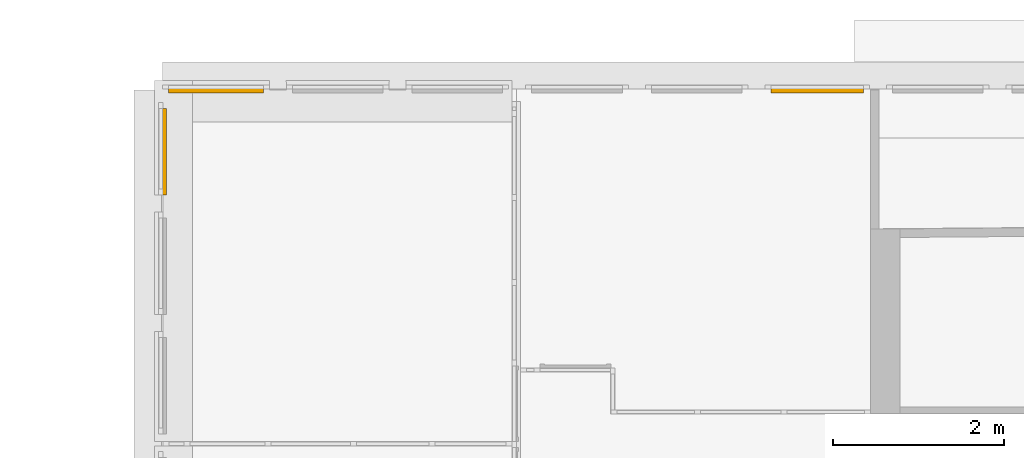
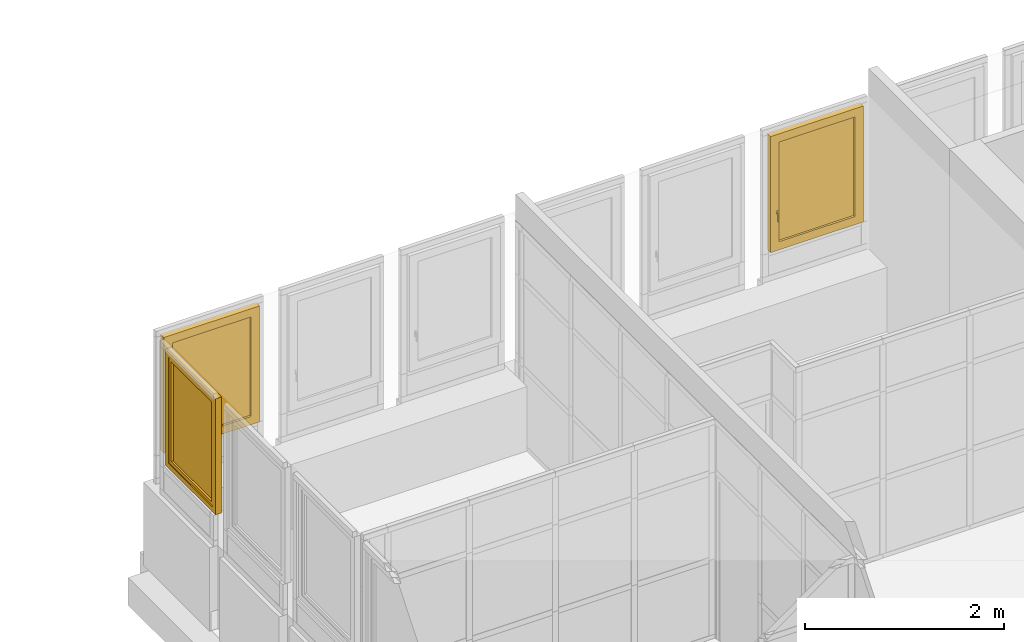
# One storey, part 92 of 97: 3 windows, 3 elements without a shape of their own.
"""IFC4 building model written with IfcOpenShell, lengths in metres."""

from ifc_helpers import new_model, entity, si_unit, converted_unit, derived_unit, direction, frame, origin, place, context, subcontext, project, spatial, polygons, source, transform, mapped, material, material_list, constituent, constituent_set, type_object, type_shapes, element, aggregate, save


model = new_model("IFC4")

# Units and contexts
model_context = context("Model", 3, precision=1e-05, world=origin(), true_north=direction((6.12303176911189e-17, 1.0)))
body_context = subcontext(model_context, "Body", "Model", "MODEL_VIEW")
ifc_project = project(units=[si_unit("LENGTHUNIT", "METRE"), si_unit("AREAUNIT", "SQUARE_METRE"), si_unit("VOLUMEUNIT", "CUBIC_METRE"), converted_unit("PLANEANGLEUNIT", "DEGREE", entity("IfcRatioMeasure", 0.0174532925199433), si_unit("PLANEANGLEUNIT", "RADIAN"), dimensions=[0, 0, 0, 0, 0, 0, 0]), si_unit("MASSUNIT", "GRAM", prefix="KILO"), derived_unit("MASSDENSITYUNIT", [(si_unit("MASSUNIT", "GRAM", prefix="KILO"), 1), (si_unit("LENGTHUNIT", "METRE"), -3)]), derived_unit("MOMENTOFINERTIAUNIT", [(si_unit("LENGTHUNIT", "METRE"), 4)]), si_unit("TIMEUNIT", "SECOND"), si_unit("FREQUENCYUNIT", "HERTZ"), si_unit("THERMODYNAMICTEMPERATUREUNIT", "DEGREE_CELSIUS"), derived_unit("THERMALTRANSMITTANCEUNIT", [(si_unit("MASSUNIT", "GRAM", prefix="KILO"), 1), (si_unit("THERMODYNAMICTEMPERATUREUNIT", "KELVIN"), -1), (si_unit("TIMEUNIT", "SECOND"), -3)]), derived_unit("VOLUMETRICFLOWRATEUNIT", [(si_unit("LENGTHUNIT", "METRE"), 3), (si_unit("TIMEUNIT", "SECOND"), -1)]), si_unit("ELECTRICCURRENTUNIT", "AMPERE"), si_unit("ELECTRICVOLTAGEUNIT", "VOLT"), si_unit("POWERUNIT", "WATT"), si_unit("FORCEUNIT", "NEWTON", prefix="KILO"), si_unit("ILLUMINANCEUNIT", "LUX"), si_unit("LUMINOUSFLUXUNIT", "LUMEN"), si_unit("LUMINOUSINTENSITYUNIT", "CANDELA"), derived_unit("USERDEFINED", [(si_unit("MASSUNIT", "GRAM", prefix="KILO"), -1), (si_unit("LENGTHUNIT", "METRE"), -2), (si_unit("TIMEUNIT", "SECOND"), 3), (si_unit("LUMINOUSFLUXUNIT", "LUMEN"), 1)]), derived_unit("LINEARVELOCITYUNIT", [(si_unit("LENGTHUNIT", "METRE"), 1), (si_unit("TIMEUNIT", "SECOND"), -1)]), si_unit("PRESSUREUNIT", "PASCAL"), derived_unit("USERDEFINED", [(si_unit("LENGTHUNIT", "METRE"), -2), (si_unit("MASSUNIT", "GRAM", prefix="KILO"), 1), (si_unit("TIMEUNIT", "SECOND"), -2)]), derived_unit("LINEARFORCEUNIT", [(si_unit("MASSUNIT", "GRAM", prefix="KILO"), 1), (si_unit("LENGTHUNIT", "METRE"), 1), (si_unit("TIMEUNIT", "SECOND"), -2), (si_unit("LENGTHUNIT", "METRE"), -1)]), derived_unit("PLANARFORCEUNIT", [(si_unit("MASSUNIT", "GRAM", prefix="KILO"), 1), (si_unit("LENGTHUNIT", "METRE"), 1), (si_unit("TIMEUNIT", "SECOND"), -2), (si_unit("LENGTHUNIT", "METRE"), -2)])], contexts=[model_context])

# Site, building, storey
site_placement = place(None, origin())
site = spatial("IfcSite", under=ifc_project, at=site_placement, Name="Default", CompositionType="ELEMENT")
building_placement = place(site_placement, origin())
building = spatial("IfcBuilding", under=site, at=building_placement, Name="HOTEL CONSULAIRE BOULOGNE SUR MER", CompositionType="ELEMENT")
storey_placement = place(building_placement, frame((0.0, 0.0, 3.62152697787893)))
storey = spatial("IfcBuildingStorey", under=building, at=storey_placement, Name="Niveau 1", CompositionType="ELEMENT", Elevation=3.62152697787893)

# Curtain wall, window
curtain_wall_type = type_object("IfcCurtainWallType", Name="Mur-rideau:Simple panneau", PredefinedType="NOTDEFINED")
curtain_wall_1_placement = place(storey_placement, frame((0.0, 0.0, -3.62152697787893)))
curtain_wall_1 = element("IfcCurtainWall", 1, at=curtain_wall_1_placement, inside=storey, type_object=curtain_wall_type, Name="Mur-rideau:Simple panneau", ObjectType="Mur-rideau:Simple panneau", PredefinedType="NOTDEFINED")
ifc_material_1 = material(Name="PVC - Blanc", Category="Plastique")
ifc_constituent_1 = constituent(ifc_material_1, Name="PVC - Blanc", Category="Matériaux")
ifc_material_2 = material(Name="Fenêtre - Vitrage", Category="Verre")
ifc_constituent_2 = constituent(ifc_material_2, Name="Fenêtre - Vitrage", Category="Matériaux")
ifc_constituent_set_1 = constituent_set(constituents=[ifc_constituent_1, ifc_constituent_2], Name="MaterialConstituentSet")
ifc_material_list_1 = material_list([ifc_material_1, ifc_material_1])
window_type_1 = type_object("IfcWindowType", Name="MR 1 Vantail:MR 1 Vantail", PartitioningType="NOTDEFINED", PredefinedType="WINDOW", material=ifc_material_list_1)
shared_shape_1 = source(origin(), body_context, "Body", "Tessellation", [
    polygons([(-0.436208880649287, -0.0492408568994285, 0.472033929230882), (-0.424916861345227, -0.0492408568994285, 0.472033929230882), (-0.423528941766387, -0.0492408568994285, 0.470646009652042), (-0.423528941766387, -0.0492408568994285, 0.459332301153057), (-0.424895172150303, -0.0492408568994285, 0.457966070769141), (-0.436230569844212, -0.0492408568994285, 0.457966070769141), (-0.437596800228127, -0.0492408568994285, 0.459332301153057), (-0.437596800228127, -0.0492408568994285, 0.470646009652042), (-0.437596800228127, -0.0615795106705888, 0.470646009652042), (-0.436208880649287, -0.0621544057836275, 0.472033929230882), (-0.437596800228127, -0.0568932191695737, 0.459332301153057), (-0.437596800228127, -0.0635731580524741, 0.452652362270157), (-0.437596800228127, -0.0635731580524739, 0.370000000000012), (-0.437596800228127, -0.0748868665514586, 0.370000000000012), (-0.437596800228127, -0.0748868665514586, 0.457338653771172), (-0.436230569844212, -0.0563273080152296, 0.457966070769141), (-0.424895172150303, -0.0563273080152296, 0.457966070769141), (-0.423528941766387, -0.0568932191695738, 0.459332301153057), (-0.423528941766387, -0.0615795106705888, 0.470646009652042), (-0.423528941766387, -0.0748868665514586, 0.457338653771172), (-0.423528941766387, -0.0748868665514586, 0.370000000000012), (-0.423528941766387, -0.0635731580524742, 0.370000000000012), (-0.423528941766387, -0.0635731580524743, 0.452652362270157), (-0.424916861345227, -0.0621544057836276, 0.472033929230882), (-0.436208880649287, -0.076274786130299, 0.457913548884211), (-0.436230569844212, -0.0622069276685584, 0.452086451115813), (-0.424895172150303, -0.0622069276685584, 0.452086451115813), (-0.424916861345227, -0.076274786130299, 0.457913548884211), (-0.436208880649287, -0.0762747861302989, 0.370000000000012), (-0.436230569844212, -0.0622069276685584, 0.370000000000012), (-0.424895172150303, -0.0622069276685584, 0.370000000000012), (-0.424916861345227, -0.0762747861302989, 0.370000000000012)], [[[6, 7, 8, 1, 2, 3, 4, 5]], [[30, 26, 27, 31]], [[9, 10, 1, 8]], [[11, 12, 13, 14, 15, 9, 8, 7]], [[16, 11, 7, 6]], [[16, 6, 5, 17]], [[31, 22, 21, 32, 29, 14, 13, 30]], [[17, 5, 4, 18]], [[3, 19, 20, 21, 22, 23, 18, 4]], [[19, 3, 2, 24]], [[24, 2, 1, 10]], [[15, 25, 10, 9]], [[26, 12, 11, 16]], [[27, 26, 16, 17]], [[27, 17, 18, 23]], [[20, 19, 24, 28]], [[28, 24, 10, 25]], [[29, 25, 15, 14]], [[13, 12, 26, 30]], [[22, 31, 27, 23]], [[32, 21, 20, 28]], [[32, 28, 25, 29]]], closed=True),
    polygons([(-0.437562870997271, -0.0432408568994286, 0.490000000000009), (-0.423562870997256, -0.0432408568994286, 0.490000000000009), (-0.418562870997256, -0.0432408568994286, 0.48500000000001), (-0.418562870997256, -0.0432408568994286, 0.414999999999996), (-0.423562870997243, -0.0432408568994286, 0.410000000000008), (-0.437562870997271, -0.0432408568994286, 0.410000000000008), (-0.442562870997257, -0.0432408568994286, 0.414999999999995), (-0.442562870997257, -0.0432408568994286, 0.48500000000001), (-0.437562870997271, -0.0492408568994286, 0.490000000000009), (-0.442562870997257, -0.0492408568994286, 0.48500000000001), (-0.442562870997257, -0.0492408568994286, 0.414999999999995), (-0.437562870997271, -0.0492408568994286, 0.410000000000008), (-0.423562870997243, -0.0492408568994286, 0.410000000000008), (-0.418562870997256, -0.0492408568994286, 0.414999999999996), (-0.418562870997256, -0.0492408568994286, 0.48500000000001), (-0.423562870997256, -0.0492408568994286, 0.490000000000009)], [[[2, 3, 4, 5, 6, 7, 8, 1]], [[13, 14, 15, 16, 9, 10, 11, 12]], [[9, 1, 8, 10]], [[10, 8, 7, 11]], [[11, 7, 6, 12]], [[12, 6, 5, 13]], [[13, 5, 4, 14]], [[15, 14, 4, 3]], [[15, 3, 2, 16]], [[16, 2, 1, 9]]], closed=True),
    polygons([(0.405562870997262, -0.0192408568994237, 1.32586048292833), (-0.405562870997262, -0.0192408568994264, 1.32586048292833), (-0.405562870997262, -0.0192408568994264, 0.1), (0.405562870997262, -0.0192408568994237, 0.1), (0.405562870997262, -0.00724085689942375, 1.32586048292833), (0.405562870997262, -0.00724085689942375, 0.1), (-0.405562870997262, -0.00724085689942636, 0.1), (-0.405562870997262, -0.00724085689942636, 1.32586048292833)], [[[4, 1, 2, 3]], [[7, 8, 5, 6]], [[2, 1, 5, 8]], [[3, 2, 8, 7]], [[4, 3, 7, 6]], [[1, 4, 6, 5]]], closed=True),
    polygons([(-0.455562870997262, 0.0167591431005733, 1.37586048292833), (-0.455562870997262, -0.043240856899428, 1.37586048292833), (0.455562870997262, -0.043240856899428, 1.37586048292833), (0.455562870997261, 0.0167591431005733, 1.37586048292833), (-0.405562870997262, -0.043240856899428, 1.32586048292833), (-0.405562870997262, 0.0167591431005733, 1.32586048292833), (0.405562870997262, 0.0167591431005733, 1.32586048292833), (0.405562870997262, -0.043240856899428, 1.32586048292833), (0.455562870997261, -0.043240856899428, 0.0500000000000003), (0.455562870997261, 0.0167591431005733, 0.0500000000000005), (0.405562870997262, 0.0167591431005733, 0.1), (0.405562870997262, -0.043240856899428, 0.1), (-0.455562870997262, -0.043240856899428, 0.0500000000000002), (-0.455562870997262, 0.0167591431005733, 0.0500000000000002), (-0.405562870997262, 0.0167591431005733, 0.1), (-0.405562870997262, -0.043240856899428, 0.1)], [[[1, 2, 3, 4]], [[12, 11, 15, 16]], [[5, 6, 7, 8]], [[10, 9, 13, 14]], [[4, 3, 9, 10]], [[16, 15, 6, 5]], [[8, 7, 11, 12]], [[14, 13, 2, 1]], [[9, 3, 2, 13], [16, 5, 8, 12]], [[14, 1, 4, 10], [11, 7, 6, 15]]], closed=True),
    polygons([(-0.445562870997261, 0.016759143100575, 1.36586048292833), (-0.445562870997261, 0.0267591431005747, 1.36586048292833), (0.445562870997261, 0.0267591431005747, 1.36586048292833), (0.445562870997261, 0.016759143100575, 1.36586048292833), (-0.455562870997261, -0.0432408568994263, 1.37586048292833), (-0.455562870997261, 0.016759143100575, 1.37586048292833), (0.455562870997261, 0.016759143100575, 1.37586048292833), (0.455562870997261, -0.0432408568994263, 1.37586048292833), (-0.505562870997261, 0.0267591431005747, 1.42586048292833), (-0.505562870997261, -0.0432408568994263, 1.42586048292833), (0.505562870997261, -0.0432408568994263, 1.42586048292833), (0.505562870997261, 0.0267591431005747, 1.42586048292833), (0.445562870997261, 0.0267591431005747, 0.0600000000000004), (0.445562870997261, 0.016759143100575, 0.0600000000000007), (0.455562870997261, 0.016759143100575, 0.0500000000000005), (0.455562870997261, -0.0432408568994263, 0.0500000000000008), (0.505562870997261, -0.0432408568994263, 5.41433564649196e-16), (0.505562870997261, 0.0267591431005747, 5.41433564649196e-16), (-0.445562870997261, 0.0267591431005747, 0.0600000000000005), (-0.445562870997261, 0.016759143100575, 0.0600000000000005), (-0.455562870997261, 0.016759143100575, 0.0500000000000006), (-0.455562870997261, -0.0432408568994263, 0.0500000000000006), (-0.505562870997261, -0.0432408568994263, 6.09112760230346e-16), (-0.505562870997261, 0.0267591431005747, 6.09112760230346e-16)], [[[1, 2, 3, 4]], [[5, 6, 7, 8]], [[18, 17, 23, 24]], [[9, 10, 11, 12]], [[14, 13, 19, 20]], [[16, 15, 21, 22]], [[4, 3, 13, 14]], [[8, 7, 15, 16]], [[24, 23, 10, 9]], [[12, 11, 17, 18]], [[20, 19, 2, 1]], [[22, 21, 6, 5]], [[24, 9, 12, 18], [13, 3, 2, 19]], [[15, 7, 6, 21], [20, 1, 4, 14]], [[17, 11, 10, 23], [22, 5, 8, 16]]], closed=True),
])
type_shapes(window_type_1, [shared_shape_1])
window_1_placement = place(curtain_wall_1_placement, frame((-13.7870998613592, -10.8058870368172, 4.79613951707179), z_axis=(0.0, 0.0, 1.0), x_axis=(0.0, 1.0, 0.0)))
window_1 = element("IfcWindow", 2, at=window_1_placement, type_object=window_type_1, material=ifc_constituent_set_1, Name="MR 1 Vantail:MR 1 Vantail", ObjectType="MR 1 Vantail:MR 1 Vantail", OverallHeight=1.42586048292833, OverallWidth=1.01112574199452, PartitioningType="NOTDEFINED", PredefinedType="WINDOW", context=body_context, shape_type="MappedRepresentation", body=[
    mapped(shared_shape_1, transform((0.0, 0.0, 0.0), scale=1.0)),
])
aggregate(curtain_wall_1, [window_1])

curtain_wall_2_placement = place(storey_placement, frame((0.0, 0.0, -3.62152697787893)))
curtain_wall_2 = element("IfcCurtainWall", 3, at=curtain_wall_2_placement, inside=storey, type_object=curtain_wall_type, Name="Mur-rideau:Simple panneau", ObjectType="Mur-rideau:Simple panneau", PredefinedType="NOTDEFINED")
ifc_constituent_3 = constituent(ifc_material_1, Name="PVC - Blanc", Category="Matériaux")
ifc_constituent_4 = constituent(ifc_material_2, Name="Fenêtre - Vitrage", Category="Matériaux")
ifc_constituent_set_2 = constituent_set(constituents=[ifc_constituent_3, ifc_constituent_4], Name="MaterialConstituentSet")
ifc_material_list_2 = material_list([ifc_material_1, ifc_material_1])
window_type_2 = type_object("IfcWindowType", Name="MR 1 Vantail:MR 1 Vantail", PartitioningType="NOTDEFINED", PredefinedType="WINDOW", material=ifc_material_list_2)
shared_shape_2 = source(origin(), body_context, "Body", "Tessellation", [
    polygons([(-0.486926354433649, -0.0492408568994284, 0.472033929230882), (-0.475634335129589, -0.0492408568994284, 0.472033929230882), (-0.474246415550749, -0.0492408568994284, 0.470646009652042), (-0.474246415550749, -0.0492408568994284, 0.459332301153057), (-0.475612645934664, -0.0492408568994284, 0.457966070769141), (-0.486948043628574, -0.0492408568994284, 0.457966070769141), (-0.488314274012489, -0.0492408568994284, 0.459332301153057), (-0.488314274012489, -0.0492408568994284, 0.470646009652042), (-0.488314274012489, -0.0615795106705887, 0.470646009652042), (-0.486926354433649, -0.0621544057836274, 0.472033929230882), (-0.488314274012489, -0.0568932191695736, 0.459332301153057), (-0.488314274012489, -0.063573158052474, 0.452652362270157), (-0.488314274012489, -0.0635731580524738, 0.370000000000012), (-0.488314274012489, -0.0748868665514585, 0.370000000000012), (-0.488314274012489, -0.0748868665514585, 0.457338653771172), (-0.486948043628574, -0.0563273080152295, 0.457966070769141), (-0.475612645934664, -0.0563273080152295, 0.457966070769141), (-0.474246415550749, -0.0568932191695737, 0.459332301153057), (-0.474246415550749, -0.0615795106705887, 0.470646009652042), (-0.474246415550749, -0.0748868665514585, 0.457338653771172), (-0.474246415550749, -0.0748868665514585, 0.370000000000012), (-0.474246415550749, -0.0635731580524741, 0.370000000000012), (-0.474246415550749, -0.0635731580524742, 0.452652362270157), (-0.475634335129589, -0.0621544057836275, 0.472033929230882), (-0.486926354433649, -0.0762747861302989, 0.457913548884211), (-0.486948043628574, -0.0622069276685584, 0.452086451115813), (-0.475612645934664, -0.0622069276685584, 0.452086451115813), (-0.475634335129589, -0.0762747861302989, 0.457913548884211), (-0.486926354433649, -0.0762747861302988, 0.370000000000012), (-0.486948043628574, -0.0622069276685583, 0.370000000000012), (-0.475612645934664, -0.0622069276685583, 0.370000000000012), (-0.475634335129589, -0.0762747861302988, 0.370000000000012)], [[[6, 7, 8, 1, 2, 3, 4, 5]], [[30, 26, 27, 31]], [[9, 10, 1, 8]], [[11, 12, 13, 14, 15, 9, 8, 7]], [[16, 11, 7, 6]], [[16, 6, 5, 17]], [[31, 22, 21, 32, 29, 14, 13, 30]], [[17, 5, 4, 18]], [[3, 19, 20, 21, 22, 23, 18, 4]], [[19, 3, 2, 24]], [[24, 2, 1, 10]], [[15, 25, 10, 9]], [[26, 12, 11, 16]], [[27, 26, 16, 17]], [[27, 17, 18, 23]], [[20, 19, 24, 28]], [[28, 24, 10, 25]], [[29, 25, 15, 14]], [[13, 12, 26, 30]], [[22, 31, 27, 23]], [[32, 21, 20, 28]], [[32, 28, 25, 29]]], closed=True),
    polygons([(-0.488280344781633, -0.0432408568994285, 0.490000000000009), (-0.474280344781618, -0.0432408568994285, 0.490000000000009), (-0.469280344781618, -0.0432408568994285, 0.48500000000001), (-0.469280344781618, -0.0432408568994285, 0.414999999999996), (-0.474280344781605, -0.0432408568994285, 0.410000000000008), (-0.488280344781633, -0.0432408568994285, 0.410000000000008), (-0.493280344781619, -0.0432408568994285, 0.414999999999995), (-0.493280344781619, -0.0432408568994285, 0.48500000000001), (-0.488280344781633, -0.0492408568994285, 0.490000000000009), (-0.493280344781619, -0.0492408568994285, 0.48500000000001), (-0.493280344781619, -0.0492408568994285, 0.414999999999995), (-0.488280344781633, -0.0492408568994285, 0.410000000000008), (-0.474280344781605, -0.0492408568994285, 0.410000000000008), (-0.469280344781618, -0.0492408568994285, 0.414999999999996), (-0.469280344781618, -0.0492408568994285, 0.48500000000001), (-0.474280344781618, -0.0492408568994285, 0.490000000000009)], [[[2, 3, 4, 5, 6, 7, 8, 1]], [[13, 14, 15, 16, 9, 10, 11, 12]], [[9, 1, 8, 10]], [[10, 8, 7, 11]], [[11, 7, 6, 12]], [[12, 6, 5, 13]], [[13, 5, 4, 14]], [[15, 14, 4, 3]], [[15, 3, 2, 16]], [[16, 2, 1, 9]]], closed=True),
    polygons([(0.456280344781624, -0.0192408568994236, 1.32586048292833), (-0.456280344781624, -0.0192408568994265, 1.32586048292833), (-0.456280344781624, -0.0192408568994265, 0.0999999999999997), (0.456280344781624, -0.0192408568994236, 0.0999999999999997), (0.456280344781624, -0.00724085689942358, 1.32586048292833), (0.456280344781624, -0.00724085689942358, 0.0999999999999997), (-0.456280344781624, -0.00724085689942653, 0.0999999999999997), (-0.456280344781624, -0.00724085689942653, 1.32586048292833)], [[[4, 1, 2, 3]], [[7, 8, 5, 6]], [[2, 1, 5, 8]], [[3, 2, 8, 7]], [[4, 3, 7, 6]], [[1, 4, 6, 5]]], closed=True),
    polygons([(-0.506280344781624, 0.0167591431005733, 1.37586048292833), (-0.506280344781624, -0.043240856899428, 1.37586048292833), (0.506280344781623, -0.043240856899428, 1.37586048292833), (0.506280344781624, 0.0167591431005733, 1.37586048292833), (-0.456280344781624, -0.043240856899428, 1.32586048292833), (-0.456280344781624, 0.0167591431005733, 1.32586048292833), (0.456280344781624, 0.0167591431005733, 1.32586048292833), (0.456280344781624, -0.043240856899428, 1.32586048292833), (0.506280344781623, -0.043240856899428, 0.0500000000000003), (0.506280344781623, 0.0167591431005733, 0.0500000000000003), (0.456280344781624, 0.0167591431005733, 0.0999999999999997), (0.456280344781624, -0.043240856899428, 0.0999999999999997), (-0.506280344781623, -0.043240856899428, 0.0500000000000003), (-0.506280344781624, 0.0167591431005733, 0.0500000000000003), (-0.456280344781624, 0.0167591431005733, 0.0999999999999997), (-0.456280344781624, -0.043240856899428, 0.0999999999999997)], [[[1, 2, 3, 4]], [[12, 11, 15, 16]], [[5, 6, 7, 8]], [[10, 9, 13, 14]], [[4, 3, 9, 10]], [[16, 15, 6, 5]], [[8, 7, 11, 12]], [[14, 13, 2, 1]], [[9, 3, 2, 13], [16, 5, 8, 12]], [[14, 1, 4, 10], [11, 7, 6, 15]]], closed=True),
    polygons([(-0.496280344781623, 0.016759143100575, 1.36586048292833), (-0.496280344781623, 0.0267591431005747, 1.36586048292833), (0.496280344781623, 0.0267591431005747, 1.36586048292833), (0.496280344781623, 0.016759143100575, 1.36586048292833), (-0.506280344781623, -0.0432408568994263, 1.37586048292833), (-0.506280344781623, 0.016759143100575, 1.37586048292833), (0.506280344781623, 0.016759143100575, 1.37586048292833), (0.506280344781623, -0.0432408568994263, 1.37586048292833), (-0.556280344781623, 0.0267591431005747, 1.42586048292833), (-0.556280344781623, -0.0432408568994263, 1.42586048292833), (0.556280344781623, -0.0432408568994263, 1.42586048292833), (0.556280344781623, 0.0267591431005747, 1.42586048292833), (0.496280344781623, 0.0267591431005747, 0.0600000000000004), (0.496280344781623, 0.016759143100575, 0.0600000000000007), (0.506280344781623, 0.016759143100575, 0.0500000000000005), (0.506280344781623, -0.0432408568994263, 0.0500000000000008), (0.556280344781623, -0.0432408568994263, 5.41433564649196e-16), (0.556280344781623, 0.0267591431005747, 5.41433564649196e-16), (-0.496280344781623, 0.0267591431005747, 0.0600000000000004), (-0.496280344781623, 0.016759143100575, 0.0600000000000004), (-0.506280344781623, 0.016759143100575, 0.0500000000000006), (-0.506280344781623, -0.0432408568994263, 0.0500000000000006), (-0.556280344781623, -0.0432408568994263, 5.41433564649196e-16), (-0.556280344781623, 0.0267591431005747, 5.41433564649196e-16)], [[[1, 2, 3, 4]], [[5, 6, 7, 8]], [[18, 17, 23, 24]], [[9, 10, 11, 12]], [[14, 13, 19, 20]], [[16, 15, 21, 22]], [[4, 3, 13, 14]], [[8, 7, 15, 16]], [[24, 23, 10, 9]], [[12, 11, 17, 18]], [[20, 19, 2, 1]], [[22, 21, 6, 5]], [[24, 9, 12, 18], [13, 3, 2, 19]], [[15, 7, 6, 21], [20, 1, 4, 14]], [[17, 11, 10, 23], [22, 5, 8, 16]]], closed=True),
])
type_shapes(window_type_2, [shared_shape_2])
window_2_placement = place(curtain_wall_2_placement, frame((-13.1677003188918, -10.0746323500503, 4.79613951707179)))
window_2 = element("IfcWindow", 4, at=window_2_placement, type_object=window_type_2, material=ifc_constituent_set_2, Name="MR 1 Vantail:MR 1 Vantail", ObjectType="MR 1 Vantail:MR 1 Vantail", OverallHeight=1.42586048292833, OverallWidth=1.11256068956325, PartitioningType="NOTDEFINED", PredefinedType="WINDOW", context=body_context, shape_type="MappedRepresentation", body=[
    mapped(shared_shape_2, transform((0.0, 0.0, 0.0), scale=1.0)),
])
aggregate(curtain_wall_2, [window_2])

curtain_wall_3_placement = place(storey_placement, frame((0.0, 0.0, -3.62152697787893)))
curtain_wall_3 = element("IfcCurtainWall", 5, at=curtain_wall_3_placement, inside=storey, type_object=curtain_wall_type, Name="Mur-rideau:Simple panneau", ObjectType="Mur-rideau:Simple panneau", PredefinedType="NOTDEFINED")
ifc_constituent_5 = constituent(ifc_material_1, Name="PVC - Blanc", Category="Matériaux")
ifc_constituent_6 = constituent(ifc_material_2, Name="Fenêtre - Vitrage", Category="Matériaux")
ifc_constituent_set_3 = constituent_set(constituents=[ifc_constituent_5, ifc_constituent_6], Name="MaterialConstituentSet")
ifc_material_list_3 = material_list([ifc_material_1, ifc_material_1])
window_type_3 = type_object("IfcWindowType", Name="MR 1 Vantail:MR 1 Vantail", PartitioningType="NOTDEFINED", PredefinedType="WINDOW", material=ifc_material_list_3)
shared_shape_3 = source(origin(), body_context, "Body", "Tessellation", [
    polygons([(-0.471469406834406, -0.0492408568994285, 0.472033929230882), (-0.460177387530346, -0.0492408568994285, 0.472033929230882), (-0.458789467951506, -0.0492408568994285, 0.470646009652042), (-0.458789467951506, -0.0492408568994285, 0.459332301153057), (-0.460155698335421, -0.0492408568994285, 0.457966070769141), (-0.471491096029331, -0.0492408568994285, 0.457966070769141), (-0.472857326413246, -0.0492408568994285, 0.459332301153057), (-0.472857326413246, -0.0492408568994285, 0.470646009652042), (-0.472857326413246, -0.0615795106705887, 0.470646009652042), (-0.471469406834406, -0.0621544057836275, 0.472033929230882), (-0.472857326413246, -0.0568932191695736, 0.459332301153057), (-0.472857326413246, -0.063573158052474, 0.452652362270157), (-0.472857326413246, -0.0635731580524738, 0.370000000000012), (-0.472857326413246, -0.0748868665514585, 0.370000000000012), (-0.472857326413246, -0.0748868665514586, 0.457338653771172), (-0.471491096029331, -0.0563273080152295, 0.457966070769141), (-0.460155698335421, -0.0563273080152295, 0.457966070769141), (-0.458789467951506, -0.0568932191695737, 0.459332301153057), (-0.458789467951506, -0.0615795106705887, 0.470646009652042), (-0.458789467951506, -0.0748868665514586, 0.457338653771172), (-0.458789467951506, -0.0748868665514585, 0.370000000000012), (-0.458789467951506, -0.0635731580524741, 0.370000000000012), (-0.458789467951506, -0.0635731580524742, 0.452652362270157), (-0.460177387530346, -0.0621544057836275, 0.472033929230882), (-0.471469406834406, -0.0762747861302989, 0.457913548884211), (-0.471491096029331, -0.0622069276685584, 0.452086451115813), (-0.460155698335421, -0.0622069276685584, 0.452086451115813), (-0.460177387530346, -0.0762747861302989, 0.457913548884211), (-0.471469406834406, -0.0762747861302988, 0.370000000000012), (-0.471491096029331, -0.0622069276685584, 0.370000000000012), (-0.460155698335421, -0.0622069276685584, 0.370000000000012), (-0.460177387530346, -0.0762747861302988, 0.370000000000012)], [[[6, 7, 8, 1, 2, 3, 4, 5]], [[30, 26, 27, 31]], [[9, 10, 1, 8]], [[11, 12, 13, 14, 15, 9, 8, 7]], [[16, 11, 7, 6]], [[16, 6, 5, 17]], [[31, 22, 21, 32, 29, 14, 13, 30]], [[17, 5, 4, 18]], [[3, 19, 20, 21, 22, 23, 18, 4]], [[19, 3, 2, 24]], [[24, 2, 1, 10]], [[15, 25, 10, 9]], [[26, 12, 11, 16]], [[27, 26, 16, 17]], [[27, 17, 18, 23]], [[20, 19, 24, 28]], [[28, 24, 10, 25]], [[29, 25, 15, 14]], [[13, 12, 26, 30]], [[22, 31, 27, 23]], [[32, 21, 20, 28]], [[32, 28, 25, 29]]], closed=True),
    polygons([(-0.47282339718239, -0.0432408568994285, 0.490000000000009), (-0.458823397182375, -0.0432408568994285, 0.490000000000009), (-0.453823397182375, -0.0432408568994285, 0.48500000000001), (-0.453823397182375, -0.0432408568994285, 0.414999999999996), (-0.458823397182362, -0.0432408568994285, 0.410000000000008), (-0.47282339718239, -0.0432408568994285, 0.410000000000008), (-0.477823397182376, -0.0432408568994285, 0.414999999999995), (-0.477823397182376, -0.0432408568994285, 0.48500000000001), (-0.47282339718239, -0.0492408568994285, 0.490000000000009), (-0.477823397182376, -0.0492408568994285, 0.48500000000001), (-0.477823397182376, -0.0492408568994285, 0.414999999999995), (-0.47282339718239, -0.0492408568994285, 0.410000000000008), (-0.458823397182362, -0.0492408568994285, 0.410000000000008), (-0.453823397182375, -0.0492408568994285, 0.414999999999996), (-0.453823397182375, -0.0492408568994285, 0.48500000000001), (-0.458823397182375, -0.0492408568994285, 0.490000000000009)], [[[2, 3, 4, 5, 6, 7, 8, 1]], [[13, 14, 15, 16, 9, 10, 11, 12]], [[9, 1, 8, 10]], [[10, 8, 7, 11]], [[11, 7, 6, 12]], [[12, 6, 5, 13]], [[13, 5, 4, 14]], [[15, 14, 4, 3]], [[15, 3, 2, 16]], [[16, 2, 1, 9]]], closed=True),
    polygons([(0.440823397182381, -0.0192408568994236, 1.32586048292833), (-0.440823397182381, -0.0192408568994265, 1.32586048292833), (-0.440823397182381, -0.0192408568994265, 0.1), (0.440823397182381, -0.0192408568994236, 0.1), (0.440823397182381, -0.00724085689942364, 1.32586048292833), (0.440823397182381, -0.00724085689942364, 0.1), (-0.440823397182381, -0.00724085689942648, 0.1), (-0.440823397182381, -0.00724085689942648, 1.32586048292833)], [[[4, 1, 2, 3]], [[7, 8, 5, 6]], [[2, 1, 5, 8]], [[3, 2, 8, 7]], [[4, 3, 7, 6]], [[1, 4, 6, 5]]], closed=True),
    polygons([(-0.490823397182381, 0.0167591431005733, 1.37586048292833), (-0.490823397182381, -0.043240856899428, 1.37586048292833), (0.49082339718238, -0.043240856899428, 1.37586048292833), (0.49082339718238, 0.0167591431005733, 1.37586048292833), (-0.440823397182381, -0.043240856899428, 1.32586048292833), (-0.440823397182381, 0.0167591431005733, 1.32586048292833), (0.440823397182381, 0.0167591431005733, 1.32586048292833), (0.440823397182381, -0.043240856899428, 1.32586048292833), (0.49082339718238, -0.043240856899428, 0.0500000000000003), (0.49082339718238, 0.0167591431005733, 0.0500000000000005), (0.440823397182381, 0.0167591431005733, 0.1), (0.440823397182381, -0.043240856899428, 0.1), (-0.490823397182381, -0.043240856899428, 0.0500000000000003), (-0.49082339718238, 0.0167591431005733, 0.0500000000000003), (-0.440823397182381, 0.0167591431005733, 0.1), (-0.440823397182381, -0.043240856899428, 0.1)], [[[1, 2, 3, 4]], [[12, 11, 15, 16]], [[5, 6, 7, 8]], [[10, 9, 13, 14]], [[4, 3, 9, 10]], [[16, 15, 6, 5]], [[8, 7, 11, 12]], [[14, 13, 2, 1]], [[9, 3, 2, 13], [16, 5, 8, 12]], [[14, 1, 4, 10], [11, 7, 6, 15]]], closed=True),
    polygons([(-0.48082339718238, 0.016759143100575, 1.36586048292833), (-0.48082339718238, 0.0267591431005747, 1.36586048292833), (0.48082339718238, 0.0267591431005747, 1.36586048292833), (0.48082339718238, 0.016759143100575, 1.36586048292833), (-0.49082339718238, -0.0432408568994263, 1.37586048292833), (-0.49082339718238, 0.016759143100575, 1.37586048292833), (0.49082339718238, 0.016759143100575, 1.37586048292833), (0.49082339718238, -0.0432408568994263, 1.37586048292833), (-0.54082339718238, 0.0267591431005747, 1.42586048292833), (-0.54082339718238, -0.0432408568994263, 1.42586048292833), (0.54082339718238, -0.0432408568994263, 1.42586048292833), (0.54082339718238, 0.0267591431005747, 1.42586048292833), (0.48082339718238, 0.0267591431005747, 0.0600000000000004), (0.48082339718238, 0.016759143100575, 0.0600000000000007), (0.49082339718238, 0.016759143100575, 0.0500000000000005), (0.49082339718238, -0.0432408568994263, 0.0500000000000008), (0.54082339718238, -0.0432408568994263, 5.41433564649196e-16), (0.54082339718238, 0.0267591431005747, 5.41433564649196e-16), (-0.48082339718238, 0.0267591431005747, 0.0600000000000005), (-0.48082339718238, 0.016759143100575, 0.0600000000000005), (-0.49082339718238, 0.016759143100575, 0.0500000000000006), (-0.49082339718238, -0.0432408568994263, 0.0500000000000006), (-0.54082339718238, -0.0432408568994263, 5.41433564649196e-16), (-0.54082339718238, 0.0267591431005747, 5.41433564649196e-16)], [[[1, 2, 3, 4]], [[5, 6, 7, 8]], [[18, 17, 23, 24]], [[9, 10, 11, 12]], [[14, 13, 19, 20]], [[16, 15, 21, 22]], [[4, 3, 13, 14]], [[8, 7, 15, 16]], [[24, 23, 10, 9]], [[12, 11, 17, 18]], [[20, 19, 2, 1]], [[22, 21, 6, 5]], [[24, 9, 12, 18], [13, 3, 2, 19]], [[15, 7, 6, 21], [20, 1, 4, 14]], [[17, 11, 10, 23], [22, 5, 8, 16]]], closed=True),
])
type_shapes(window_type_3, [shared_shape_3])
window_3_placement = place(curtain_wall_3_placement, frame((-6.13059657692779, -10.0746323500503, 4.79613951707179)))
window_3 = element("IfcWindow", 6, at=window_3_placement, type_object=window_type_3, material=ifc_constituent_set_3, Name="MR 1 Vantail:MR 1 Vantail", ObjectType="MR 1 Vantail:MR 1 Vantail", OverallHeight=1.42586048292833, OverallWidth=1.08164679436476, PartitioningType="NOTDEFINED", PredefinedType="WINDOW", context=body_context, shape_type="MappedRepresentation", body=[
    mapped(shared_shape_3, transform((0.0, 0.0, 0.0), scale=1.0)),
])
aggregate(curtain_wall_3, [window_3])

save(model, "model.ifc")
